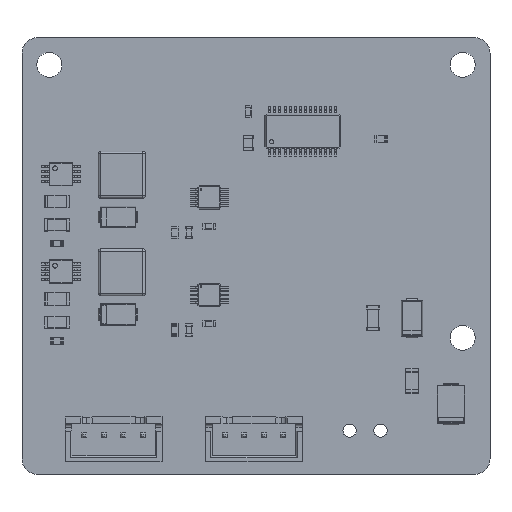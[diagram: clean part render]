
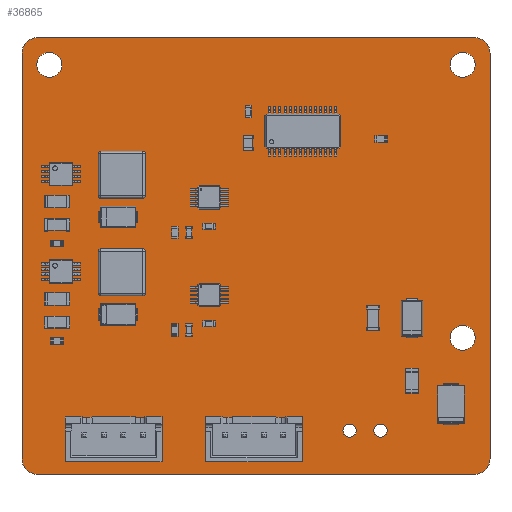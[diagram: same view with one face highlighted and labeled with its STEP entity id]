
A CAD part, top view. The second image highlights one B-rep face of the part: STEP entity #36865.
In plain terms, the highlighted planar face has unit normal (0, 0, 1).
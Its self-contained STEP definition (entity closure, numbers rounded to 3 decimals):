
#36573 = VERTEX_POINT('',#36574);
#36574 = CARTESIAN_POINT('',(158.,-100.,1.51));
#36580 = EDGE_CURVE('',#36573,#36581,#36583,.T.);
#36581 = VERTEX_POINT('',#36582);
#36582 = CARTESIAN_POINT('',(160.,-102.,1.51));
#36583 = CIRCLE('',#36584,2.);
#36584 = AXIS2_PLACEMENT_3D('',#36585,#36586,#36587);
#36585 = CARTESIAN_POINT('',(158.,-102.,1.51));
#36586 = DIRECTION('',(0.,0.,-1.));
#36587 = DIRECTION('',(0.,1.,0.));
#36615 = VERTEX_POINT('',#36616);
#36616 = CARTESIAN_POINT('',(102.,-100.,1.51));
#36622 = EDGE_CURVE('',#36615,#36573,#36623,.T.);
#36623 = LINE('',#36624,#36625);
#36624 = CARTESIAN_POINT('',(102.,-100.,1.51));
#36625 = VECTOR('',#36626,1.);
#36626 = DIRECTION('',(1.,0.,0.));
#36644 = EDGE_CURVE('',#36581,#36645,#36647,.T.);
#36645 = VERTEX_POINT('',#36646);
#36646 = CARTESIAN_POINT('',(160.,-154.,1.51));
#36647 = LINE('',#36648,#36649);
#36648 = CARTESIAN_POINT('',(160.,-102.,1.51));
#36649 = VECTOR('',#36650,1.);
#36650 = DIRECTION('',(0.,-1.,0.));
#36865 = ADVANCED_FACE('',(#36866,#36912,#36923,#36934,#36945,#36956,
    #36967,#36978,#36989,#37000,#37011,#37022,#37033,#37044),#37055,.T.
  );
#36866 = FACE_BOUND('',#36867,.T.);
#36867 = EDGE_LOOP('',(#36868,#36869,#36870,#36879,#36887,#36896,#36904,
    #36911));
#36868 = ORIENTED_EDGE('',*,*,#36580,.F.);
#36869 = ORIENTED_EDGE('',*,*,#36622,.F.);
#36870 = ORIENTED_EDGE('',*,*,#36871,.F.);
#36871 = EDGE_CURVE('',#36872,#36615,#36874,.T.);
#36872 = VERTEX_POINT('',#36873);
#36873 = CARTESIAN_POINT('',(100.,-102.,1.51));
#36874 = CIRCLE('',#36875,2.);
#36875 = AXIS2_PLACEMENT_3D('',#36876,#36877,#36878);
#36876 = CARTESIAN_POINT('',(102.,-102.,1.51));
#36877 = DIRECTION('',(0.,0.,-1.));
#36878 = DIRECTION('',(-1.,0.,-0.));
#36879 = ORIENTED_EDGE('',*,*,#36880,.F.);
#36880 = EDGE_CURVE('',#36881,#36872,#36883,.T.);
#36881 = VERTEX_POINT('',#36882);
#36882 = CARTESIAN_POINT('',(100.,-154.,1.51));
#36883 = LINE('',#36884,#36885);
#36884 = CARTESIAN_POINT('',(100.,-154.,1.51));
#36885 = VECTOR('',#36886,1.);
#36886 = DIRECTION('',(0.,1.,0.));
#36887 = ORIENTED_EDGE('',*,*,#36888,.F.);
#36888 = EDGE_CURVE('',#36889,#36881,#36891,.T.);
#36889 = VERTEX_POINT('',#36890);
#36890 = CARTESIAN_POINT('',(102.,-156.,1.51));
#36891 = CIRCLE('',#36892,2.);
#36892 = AXIS2_PLACEMENT_3D('',#36893,#36894,#36895);
#36893 = CARTESIAN_POINT('',(102.,-154.,1.51));
#36894 = DIRECTION('',(0.,0.,-1.));
#36895 = DIRECTION('',(0.,-1.,-0.));
#36896 = ORIENTED_EDGE('',*,*,#36897,.F.);
#36897 = EDGE_CURVE('',#36898,#36889,#36900,.T.);
#36898 = VERTEX_POINT('',#36899);
#36899 = CARTESIAN_POINT('',(158.,-156.,1.51));
#36900 = LINE('',#36901,#36902);
#36901 = CARTESIAN_POINT('',(158.,-156.,1.51));
#36902 = VECTOR('',#36903,1.);
#36903 = DIRECTION('',(-1.,0.,0.));
#36904 = ORIENTED_EDGE('',*,*,#36905,.F.);
#36905 = EDGE_CURVE('',#36645,#36898,#36906,.T.);
#36906 = CIRCLE('',#36907,2.);
#36907 = AXIS2_PLACEMENT_3D('',#36908,#36909,#36910);
#36908 = CARTESIAN_POINT('',(158.,-154.,1.51));
#36909 = DIRECTION('',(0.,0.,-1.));
#36910 = DIRECTION('',(1.,0.,0.));
#36911 = ORIENTED_EDGE('',*,*,#36644,.F.);
#36912 = FACE_BOUND('',#36913,.T.);
#36913 = EDGE_LOOP('',(#36914));
#36914 = ORIENTED_EDGE('',*,*,#36915,.T.);
#36915 = EDGE_CURVE('',#36916,#36916,#36918,.T.);
#36916 = VERTEX_POINT('',#36917);
#36917 = CARTESIAN_POINT('',(108.,-151.475,1.51));
#36918 = CIRCLE('',#36919,0.475);
#36919 = AXIS2_PLACEMENT_3D('',#36920,#36921,#36922);
#36920 = CARTESIAN_POINT('',(108.,-151.,1.51));
#36921 = DIRECTION('',(-0.,0.,-1.));
#36922 = DIRECTION('',(-0.,-1.,0.));
#36923 = FACE_BOUND('',#36924,.T.);
#36924 = EDGE_LOOP('',(#36925));
#36925 = ORIENTED_EDGE('',*,*,#36926,.T.);
#36926 = EDGE_CURVE('',#36927,#36927,#36929,.T.);
#36927 = VERTEX_POINT('',#36928);
#36928 = CARTESIAN_POINT('',(110.5,-151.475,1.51));
#36929 = CIRCLE('',#36930,0.475);
#36930 = AXIS2_PLACEMENT_3D('',#36931,#36932,#36933);
#36931 = CARTESIAN_POINT('',(110.5,-151.,1.51));
#36932 = DIRECTION('',(-0.,0.,-1.));
#36933 = DIRECTION('',(-0.,-1.,0.));
#36934 = FACE_BOUND('',#36935,.T.);
#36935 = EDGE_LOOP('',(#36936));
#36936 = ORIENTED_EDGE('',*,*,#36937,.T.);
#36937 = EDGE_CURVE('',#36938,#36938,#36940,.T.);
#36938 = VERTEX_POINT('',#36939);
#36939 = CARTESIAN_POINT('',(113.,-151.475,1.51));
#36940 = CIRCLE('',#36941,0.475);
#36941 = AXIS2_PLACEMENT_3D('',#36942,#36943,#36944);
#36942 = CARTESIAN_POINT('',(113.,-151.,1.51));
#36943 = DIRECTION('',(-0.,0.,-1.));
#36944 = DIRECTION('',(-0.,-1.,0.));
#36945 = FACE_BOUND('',#36946,.T.);
#36946 = EDGE_LOOP('',(#36947));
#36947 = ORIENTED_EDGE('',*,*,#36948,.T.);
#36948 = EDGE_CURVE('',#36949,#36949,#36951,.T.);
#36949 = VERTEX_POINT('',#36950);
#36950 = CARTESIAN_POINT('',(115.5,-151.475,1.51));
#36951 = CIRCLE('',#36952,0.475);
#36952 = AXIS2_PLACEMENT_3D('',#36953,#36954,#36955);
#36953 = CARTESIAN_POINT('',(115.5,-151.,1.51));
#36954 = DIRECTION('',(-0.,0.,-1.));
#36955 = DIRECTION('',(-0.,-1.,0.));
#36956 = FACE_BOUND('',#36957,.T.);
#36957 = EDGE_LOOP('',(#36958));
#36958 = ORIENTED_EDGE('',*,*,#36959,.T.);
#36959 = EDGE_CURVE('',#36960,#36960,#36962,.T.);
#36960 = VERTEX_POINT('',#36961);
#36961 = CARTESIAN_POINT('',(126.,-151.475,1.51));
#36962 = CIRCLE('',#36963,0.475);
#36963 = AXIS2_PLACEMENT_3D('',#36964,#36965,#36966);
#36964 = CARTESIAN_POINT('',(126.,-151.,1.51));
#36965 = DIRECTION('',(-0.,0.,-1.));
#36966 = DIRECTION('',(-0.,-1.,0.));
#36967 = FACE_BOUND('',#36968,.T.);
#36968 = EDGE_LOOP('',(#36969));
#36969 = ORIENTED_EDGE('',*,*,#36970,.T.);
#36970 = EDGE_CURVE('',#36971,#36971,#36973,.T.);
#36971 = VERTEX_POINT('',#36972);
#36972 = CARTESIAN_POINT('',(128.5,-151.475,1.51));
#36973 = CIRCLE('',#36974,0.475);
#36974 = AXIS2_PLACEMENT_3D('',#36975,#36976,#36977);
#36975 = CARTESIAN_POINT('',(128.5,-151.,1.51));
#36976 = DIRECTION('',(-0.,0.,-1.));
#36977 = DIRECTION('',(-0.,-1.,0.));
#36978 = FACE_BOUND('',#36979,.T.);
#36979 = EDGE_LOOP('',(#36980));
#36980 = ORIENTED_EDGE('',*,*,#36981,.T.);
#36981 = EDGE_CURVE('',#36982,#36982,#36984,.T.);
#36982 = VERTEX_POINT('',#36983);
#36983 = CARTESIAN_POINT('',(131.,-151.475,1.51));
#36984 = CIRCLE('',#36985,0.475);
#36985 = AXIS2_PLACEMENT_3D('',#36986,#36987,#36988);
#36986 = CARTESIAN_POINT('',(131.,-151.,1.51));
#36987 = DIRECTION('',(-0.,0.,-1.));
#36988 = DIRECTION('',(-0.,-1.,0.));
#36989 = FACE_BOUND('',#36990,.T.);
#36990 = EDGE_LOOP('',(#36991));
#36991 = ORIENTED_EDGE('',*,*,#36992,.T.);
#36992 = EDGE_CURVE('',#36993,#36993,#36995,.T.);
#36993 = VERTEX_POINT('',#36994);
#36994 = CARTESIAN_POINT('',(133.5,-151.475,1.51));
#36995 = CIRCLE('',#36996,0.475);
#36996 = AXIS2_PLACEMENT_3D('',#36997,#36998,#36999);
#36997 = CARTESIAN_POINT('',(133.5,-151.,1.51));
#36998 = DIRECTION('',(-0.,0.,-1.));
#36999 = DIRECTION('',(-0.,-1.,0.));
#37000 = FACE_BOUND('',#37001,.T.);
#37001 = EDGE_LOOP('',(#37002));
#37002 = ORIENTED_EDGE('',*,*,#37003,.T.);
#37003 = EDGE_CURVE('',#37004,#37004,#37006,.T.);
#37004 = VERTEX_POINT('',#37005);
#37005 = CARTESIAN_POINT('',(142.,-151.25,1.51));
#37006 = CIRCLE('',#37007,0.85);
#37007 = AXIS2_PLACEMENT_3D('',#37008,#37009,#37010);
#37008 = CARTESIAN_POINT('',(142.,-150.4,1.51));
#37009 = DIRECTION('',(-0.,0.,-1.));
#37010 = DIRECTION('',(-0.,-1.,0.));
#37011 = FACE_BOUND('',#37012,.T.);
#37012 = EDGE_LOOP('',(#37013));
#37013 = ORIENTED_EDGE('',*,*,#37014,.T.);
#37014 = EDGE_CURVE('',#37015,#37015,#37017,.T.);
#37015 = VERTEX_POINT('',#37016);
#37016 = CARTESIAN_POINT('',(145.96,-151.25,1.51));
#37017 = CIRCLE('',#37018,0.85);
#37018 = AXIS2_PLACEMENT_3D('',#37019,#37020,#37021);
#37019 = CARTESIAN_POINT('',(145.96,-150.4,1.51));
#37020 = DIRECTION('',(-0.,0.,-1.));
#37021 = DIRECTION('',(-0.,-1.,0.));
#37022 = FACE_BOUND('',#37023,.T.);
#37023 = EDGE_LOOP('',(#37024));
#37024 = ORIENTED_EDGE('',*,*,#37025,.T.);
#37025 = EDGE_CURVE('',#37026,#37026,#37028,.T.);
#37026 = VERTEX_POINT('',#37027);
#37027 = CARTESIAN_POINT('',(156.5,-140.1,1.51));
#37028 = CIRCLE('',#37029,1.6);
#37029 = AXIS2_PLACEMENT_3D('',#37030,#37031,#37032);
#37030 = CARTESIAN_POINT('',(156.5,-138.5,1.51));
#37031 = DIRECTION('',(-0.,0.,-1.));
#37032 = DIRECTION('',(-0.,-1.,0.));
#37033 = FACE_BOUND('',#37034,.T.);
#37034 = EDGE_LOOP('',(#37035));
#37035 = ORIENTED_EDGE('',*,*,#37036,.T.);
#37036 = EDGE_CURVE('',#37037,#37037,#37039,.T.);
#37037 = VERTEX_POINT('',#37038);
#37038 = CARTESIAN_POINT('',(103.5,-105.1,1.51));
#37039 = CIRCLE('',#37040,1.6);
#37040 = AXIS2_PLACEMENT_3D('',#37041,#37042,#37043);
#37041 = CARTESIAN_POINT('',(103.5,-103.5,1.51));
#37042 = DIRECTION('',(-0.,0.,-1.));
#37043 = DIRECTION('',(-0.,-1.,0.));
#37044 = FACE_BOUND('',#37045,.T.);
#37045 = EDGE_LOOP('',(#37046));
#37046 = ORIENTED_EDGE('',*,*,#37047,.T.);
#37047 = EDGE_CURVE('',#37048,#37048,#37050,.T.);
#37048 = VERTEX_POINT('',#37049);
#37049 = CARTESIAN_POINT('',(156.5,-105.1,1.51));
#37050 = CIRCLE('',#37051,1.6);
#37051 = AXIS2_PLACEMENT_3D('',#37052,#37053,#37054);
#37052 = CARTESIAN_POINT('',(156.5,-103.5,1.51));
#37053 = DIRECTION('',(-0.,0.,-1.));
#37054 = DIRECTION('',(-0.,-1.,0.));
#37055 = PLANE('',#37056);
#37056 = AXIS2_PLACEMENT_3D('',#37057,#37058,#37059);
#37057 = CARTESIAN_POINT('',(0.,0.,1.51));
#37058 = DIRECTION('',(0.,0.,1.));
#37059 = DIRECTION('',(1.,0.,-0.));
